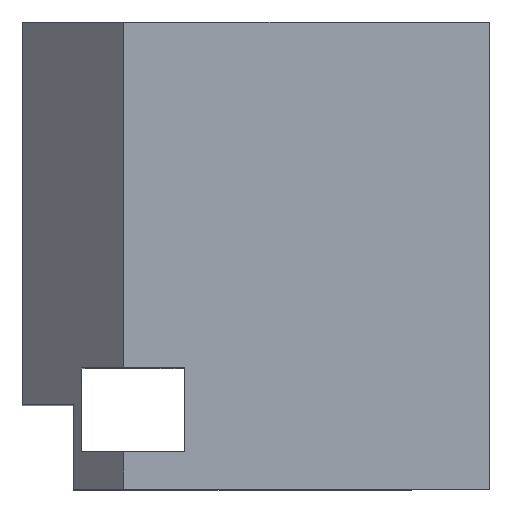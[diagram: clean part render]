
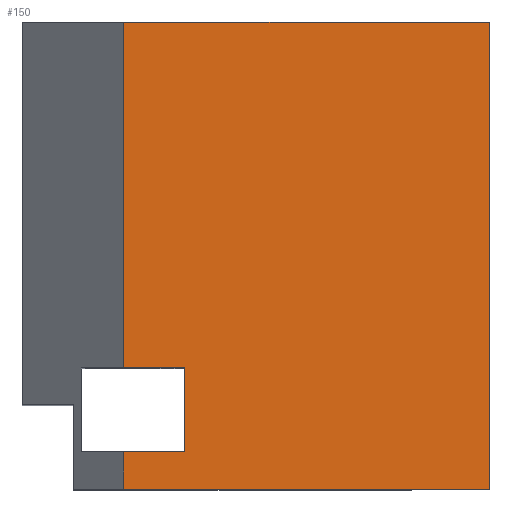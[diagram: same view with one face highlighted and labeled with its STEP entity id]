
A CAD part, top view. The second image highlights one B-rep face of the part: STEP entity #150.
In plain terms, the highlighted planar face has unit normal (0, 0, 1).
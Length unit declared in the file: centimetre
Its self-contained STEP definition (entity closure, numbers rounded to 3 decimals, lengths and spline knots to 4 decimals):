
#12 = VERTEX_POINT ( 'NONE', #930 ) ;
#14 = DIRECTION ( 'NONE',  ( 0., -1., 0. ) ) ;
#35 = CARTESIAN_POINT ( 'NONE',  ( 347.9903, 80.0571, 1000. ) ) ;
#45 = ORIENTED_EDGE ( 'NONE', *, *, #306, .F. ) ;
#57 = VECTOR ( 'NONE', #720, 100. ) ;
#81 = DIRECTION ( 'NONE',  ( 0., -1., 0. ) ) ;
#93 = CARTESIAN_POINT ( 'NONE',  ( 125.742, 80.0571, 1000. ) ) ;
#122 = DIRECTION ( 'NONE',  ( 0., 0., 1. ) ) ;
#150 = ADVANCED_FACE ( 'NONE', ( #798 ), #194, .T. ) ;
#171 = ORIENTED_EDGE ( 'NONE', *, *, #1265, .T. ) ;
#180 = LINE ( 'NONE', #93, #1170 ) ;
#186 = DIRECTION ( 'NONE',  ( 1., 0., 0. ) ) ;
#194 = PLANE ( 'NONE',  #628 ) ;
#208 = CARTESIAN_POINT ( 'NONE',  ( 216.6201, 259.5683, 1000. ) ) ;
#218 = VECTOR ( 'NONE', #374, 100. ) ;
#221 = CARTESIAN_POINT ( 'NONE',  ( 0., 0., 1000. ) ) ;
#226 = CARTESIAN_POINT ( 'NONE',  ( 347.9903, 80.0571, 1000. ) ) ;
#230 = EDGE_LOOP ( 'NONE', ( #430, #45, #618, #531, #960, #672, #758, #171 ) ) ;
#234 = VERTEX_POINT ( 'NONE', #208 ) ;
#241 = CARTESIAN_POINT ( 'NONE',  ( 1000., 1000., 1000. ) ) ;
#264 = DIRECTION ( 'NONE',  ( -1., 0., 0. ) ) ;
#298 = VECTOR ( 'NONE', #14, 100. ) ;
#306 = EDGE_CURVE ( 'NONE', #351, #491, #933, .T. ) ;
#319 = VECTOR ( 'NONE', #81, 100. ) ;
#341 = CARTESIAN_POINT ( 'NONE',  ( 216.6201, 80.0571, 1000. ) ) ;
#351 = VERTEX_POINT ( 'NONE', #35 ) ;
#366 = CARTESIAN_POINT ( 'NONE',  ( 216.6201, 0., 1000. ) ) ;
#369 = CARTESIAN_POINT ( 'NONE',  ( 125.742, 259.5683, 1000. ) ) ;
#374 = DIRECTION ( 'NONE',  ( 1., 0., 0. ) ) ;
#378 = CARTESIAN_POINT ( 'NONE',  ( 216.6201, 0., 1000. ) ) ;
#391 = VERTEX_POINT ( 'NONE', #558 ) ;
#430 = ORIENTED_EDGE ( 'NONE', *, *, #833, .F. ) ;
#491 = VERTEX_POINT ( 'NONE', #950 ) ;
#531 = ORIENTED_EDGE ( 'NONE', *, *, #1131, .T. ) ;
#558 = CARTESIAN_POINT ( 'NONE',  ( 1000., 1000., 1000. ) ) ;
#564 = VECTOR ( 'NONE', #1267, 100. ) ;
#615 = LINE ( 'NONE', #241, #977 ) ;
#618 = ORIENTED_EDGE ( 'NONE', *, *, #1212, .F. ) ;
#628 = AXIS2_PLACEMENT_3D ( 'NONE', #221, #122, #790 ) ;
#650 = VERTEX_POINT ( 'NONE', #676 ) ;
#667 = LINE ( 'NONE', #773, #218 ) ;
#672 = ORIENTED_EDGE ( 'NONE', *, *, #1067, .T. ) ;
#676 = CARTESIAN_POINT ( 'NONE',  ( 216.6201, 0., 1000. ) ) ;
#705 = VERTEX_POINT ( 'NONE', #341 ) ;
#720 = DIRECTION ( 'NONE',  ( 0., 1., 0. ) ) ;
#758 = ORIENTED_EDGE ( 'NONE', *, *, #881, .T. ) ;
#773 = CARTESIAN_POINT ( 'NONE',  ( 0., 0., 1000. ) ) ;
#790 = DIRECTION ( 'NONE',  ( 1., 0., 0. ) ) ;
#798 = FACE_OUTER_BOUND ( 'NONE', #230, .T. ) ;
#833 = EDGE_CURVE ( 'NONE', #491, #234, #1257, .T. ) ;
#864 = CARTESIAN_POINT ( 'NONE',  ( 0., 1000., 1000. ) ) ;
#881 = EDGE_CURVE ( 'NONE', #391, #12, #1262, .T. ) ;
#898 = VECTOR ( 'NONE', #264, 100. ) ;
#930 = CARTESIAN_POINT ( 'NONE',  ( 216.6201, 1000., 1000. ) ) ;
#933 = LINE ( 'NONE', #226, #57 ) ;
#950 = CARTESIAN_POINT ( 'NONE',  ( 347.9903, 259.5683, 1000. ) ) ;
#960 = ORIENTED_EDGE ( 'NONE', *, *, #973, .T. ) ;
#973 = EDGE_CURVE ( 'NONE', #650, #1047, #667, .T. ) ;
#977 = VECTOR ( 'NONE', #1007, 100. ) ;
#1007 = DIRECTION ( 'NONE',  ( 0., 1., 0. ) ) ;
#1030 = CARTESIAN_POINT ( 'NONE',  ( 1000., 0., 1000. ) ) ;
#1047 = VERTEX_POINT ( 'NONE', #1030 ) ;
#1067 = EDGE_CURVE ( 'NONE', #1047, #391, #615, .T. ) ;
#1131 = EDGE_CURVE ( 'NONE', #705, #650, #1259, .T. ) ;
#1170 = VECTOR ( 'NONE', #186, 100. ) ;
#1194 = LINE ( 'NONE', #378, #298 ) ;
#1212 = EDGE_CURVE ( 'NONE', #705, #351, #180, .T. ) ;
#1257 = LINE ( 'NONE', #369, #898 ) ;
#1259 = LINE ( 'NONE', #366, #319 ) ;
#1262 = LINE ( 'NONE', #864, #564 ) ;
#1265 = EDGE_CURVE ( 'NONE', #12, #234, #1194, .T. ) ;
#1267 = DIRECTION ( 'NONE',  ( -1., 0., 0. ) ) ;
